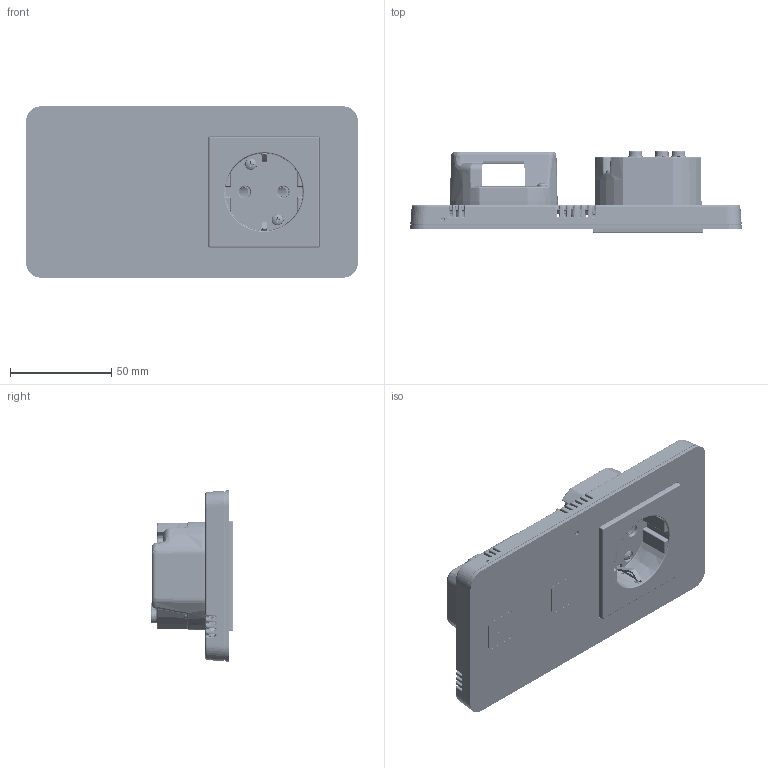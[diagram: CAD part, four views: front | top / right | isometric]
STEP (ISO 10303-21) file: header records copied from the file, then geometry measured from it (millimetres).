
FILE_DESCRIPTION(/* description */ (''),/* implementation_level */ '2;1');
FILE_NAME(/* name */ 'WSG-02sm.step',/* time_stamp */ '2026-01-24T18:00:38+01:00',/* author */ (''),/* organization */ (''),/* preprocessor_version */ 'ST-DEVELOPER v20.1',/* originating_system */ 'Autodesk Translation Framework v14.24.0.0',/* authorisation */ '');
FILE_SCHEMA (('AUTOMOTIVE_DESIGN { 1 0 10303 214 3 1 1 }'));
Products named in the file (25): WSG-02sm; OP-1020_I; OP-1020_J; OP-1399 (PUSZKA WS przewodowy); OP-1399_B; OP-1398_K; S_043.06.000.00033 ; SZKLO-WSG-02 v6; S_023.05.000.00057; OP-1042 WER.8; S_028.00.000.00024; OP-1042-D; OP-1042-E; OP-1042-O; S_045.00.000.00084; S_023.02.000.00031; S_023.02.000.00032; S_023.03.000.00010	; S_045.00.000.00075; S_023.05.000.00006; OP-1042-R; OP-1042-C_1; Folia rozpraszająca; OP-1021_A; Folia odbijająca
Assembly tree (43 placements, depth 3):
  WSG-02sm
    OP-1020_I
    OP-1020_J
    OP-1399 (PUSZKA WS przewodowy)
      OP-1399_B
      OP-1398_K
      S_043.06.000.00033 
      S_023.05.000.00006  x2
    SZKLO-WSG-02 v6
    S_023.05.000.00057  x6
    OP-1042 WER.8
      S_028.00.000.00024
      OP-1042-D
      OP-1042-E
      OP-1042-O
      S_045.00.000.00084  x2
      S_023.02.000.00031
      S_023.02.000.00032
      S_023.03.000.00010	
      #288469
      S_045.00.000.00075
      S_023.05.000.00006  x3
      #288472  x5
      OP-1042-R
      OP-1042-C_1
    Folia odbijająca  x2
    OP-1021_A  x2
    Folia rozpraszająca  x2
Bounding box: 164.09 x 40.7 x 84.75 mm (x, y, z)
Volume: 105704.6 mm3; surface area: 155368.7 mm2
Topology: 43 solids, 43 shells, 10112 faces, 28039 edges, 18234 vertices
Faces by surface type: cone 3681, plane 2932, bspline 1596, cylinder 1478, torus 318, sphere 107
Full cylindrical faces by diameter (mm): 0.466 x1, 0.528 x1, 1 x2, 1.5 x1, 1.623 x1, 1.7 x2, 1.783 x1, 1.8 x9, 1.933 x1, 2 x1, 2.17 x11, 2.2 x7, 2.3 x1, 2.4 x3, 2.5 x3, 2.729 x5, 2.927 x5, 3 x4, 3.5 x4, 3.8 x6, 4.4 x1, 5 x1
Entity records: 288354 total; most frequent: CARTESIAN_POINT 99857, ORIENTED_EDGE 39664, DIRECTION 35948, EDGE_CURVE 19832, VERTEX_POINT 13844, AXIS2_PLACEMENT_3D 12683, LINE 10582, VECTOR 10582
